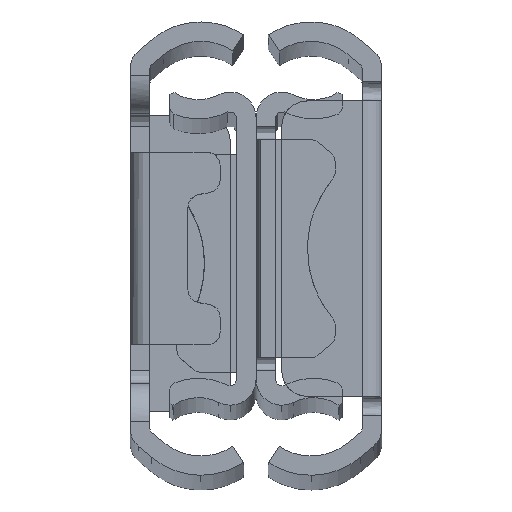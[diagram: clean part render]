
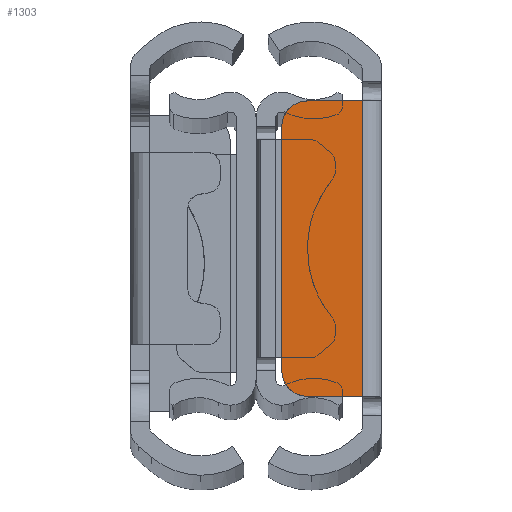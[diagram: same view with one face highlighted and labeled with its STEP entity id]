
A CAD part, top view. The second image highlights one B-rep face of the part: STEP entity #1303.
In plain terms, the highlighted planar face has unit normal (0, 0, 1) as drawn and (0, 0, -1) by its records, which use the part's own axes.
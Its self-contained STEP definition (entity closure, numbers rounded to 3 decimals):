
#31 = CARTESIAN_POINT ( 'NONE',  ( 218.1, 3.833, -152.4 ) ) ;
#46 = CARTESIAN_POINT ( 'NONE',  ( 216.667, 11.5, -152.4 ) ) ;
#139 = VERTEX_POINT ( 'NONE', #3475 ) ;
#174 = CARTESIAN_POINT ( 'NONE',  ( 218.1, -11.5, -152.4 ) ) ;
#283 = CARTESIAN_POINT ( 'NONE',  ( 211.852, -10.023, -152.4 ) ) ;
#435 = CARTESIAN_POINT ( 'NONE',  ( 213.277, 11.448, -152.4 ) ) ;
#442 = CARTESIAN_POINT ( 'NONE',  ( 218.1, 11.5, -152.4 ) ) ;
#677 = CARTESIAN_POINT ( 'NONE',  ( 212.571, -11.099, -152.4 ) ) ;
#682 = EDGE_CURVE ( 'NONE', #1271, #139, #5961, .T. ) ;
#799 = EDGE_CURVE ( 'NONE', #4651, #3382, #2037, .T. ) ;
#808 = CARTESIAN_POINT ( 'NONE',  ( 215.233, -11.5, -152.4 ) ) ;
#917 = ORIENTED_EDGE ( 'NONE', *, *, #1166, .F. ) ;
#997 = CARTESIAN_POINT ( 'NONE',  ( 218.1, -3.833, -152.4 ) ) ;
#1016 = ORIENTED_EDGE ( 'NONE', *, *, #799, .F. ) ;
#1046 = DIRECTION ( 'NONE',  ( 0., 0., 1. ) ) ;
#1166 = EDGE_CURVE ( 'NONE', #3061, #4651, #5189, .T. ) ;
#1256 = CARTESIAN_POINT ( 'NONE',  ( 212.052, -10.507, -152.4 ) ) ;
#1271 = VERTEX_POINT ( 'NONE', #442 ) ;
#1303 = ADVANCED_FACE ( 'NONE', ( #2659 ), #5572, .F. ) ;
#1344 = CARTESIAN_POINT ( 'NONE',  ( 213.8, -11.5, -152.4 ) ) ;
#1435 = CARTESIAN_POINT ( 'NONE',  ( 211.8, 9.762, -152.4 ) ) ;
#1577 = CARTESIAN_POINT ( 'NONE',  ( 215.233, 11.5, -152.4 ) ) ;
#1622 = EDGE_CURVE ( 'NONE', #139, #6201, #3610, .T. ) ;
#2037 = B_SPLINE_CURVE_WITH_KNOTS ( 'NONE', 3,
 ( #1344, #808, #4293, #5912 ),
 .UNSPECIFIED., .F., .F.,
 ( 4, 4 ),
 ( 0., 1. ),
 .UNSPECIFIED. ) ;
#2057 = CARTESIAN_POINT ( 'NONE',  ( 211.8, -9.5, -152.4 ) ) ;
#2280 = CARTESIAN_POINT ( 'NONE',  ( 211.8, -9.5, -152.4 ) ) ;
#2289 = CARTESIAN_POINT ( 'NONE',  ( 211.8, -9.5, -152.4 ) ) ;
#2428 = CARTESIAN_POINT ( 'NONE',  ( 212.793, 11.248, -152.4 ) ) ;
#2659 = FACE_OUTER_BOUND ( 'NONE', #2934, .T. ) ;
#2695 = CARTESIAN_POINT ( 'NONE',  ( 213.8, -11.5, -152.4 ) ) ;
#2888 = ORIENTED_EDGE ( 'NONE', *, *, #4121, .F. ) ;
#2934 = EDGE_LOOP ( 'NONE', ( #2888, #2963, #4861, #6144, #1016, #917 ) ) ;
#2963 = ORIENTED_EDGE ( 'NONE', *, *, #1622, .F. ) ;
#3051 = EDGE_CURVE ( 'NONE', #3382, #1271, #5222, .T. ) ;
#3061 = VERTEX_POINT ( 'NONE', #2057 ) ;
#3105 = CARTESIAN_POINT ( 'NONE',  ( 218.1, 11.5, -152.4 ) ) ;
#3139 = CARTESIAN_POINT ( 'NONE',  ( 218.1, -11.5, -152.4 ) ) ;
#3382 = VERTEX_POINT ( 'NONE', #174 ) ;
#3409 = CARTESIAN_POINT ( 'NONE',  ( 213.8, 11.5, -152.4 ) ) ;
#3444 = CARTESIAN_POINT ( 'NONE',  ( 211.8, 9.5, -152.4 ) ) ;
#3475 = CARTESIAN_POINT ( 'NONE',  ( 213.8, 11.5, -152.4 ) ) ;
#3545 = CARTESIAN_POINT ( 'NONE',  ( 213.8, -11.5, -152.4 ) ) ;
#3610 = B_SPLINE_CURVE_WITH_KNOTS ( 'NONE', 3,
 ( #3409, #6404, #435, #2428, #5410, #4919, #4414, #3920, #1435, #3444 ),
 .UNSPECIFIED., .F., .F.,
 ( 4, 2, 2, 2, 4 ),
 ( 0., 0.25, 0.5, 0.75, 1. ),
 .UNSPECIFIED. ) ;
#3920 = CARTESIAN_POINT ( 'NONE',  ( 211.852, 10.023, -152.4 ) ) ;
#4121 = EDGE_CURVE ( 'NONE', #6201, #3061, #4731, .T. ) ;
#4164 = CARTESIAN_POINT ( 'NONE',  ( 211.8, 9.5, -152.4 ) ) ;
#4201 = CARTESIAN_POINT ( 'NONE',  ( 212.793, -11.248, -152.4 ) ) ;
#4237 = CARTESIAN_POINT ( 'NONE',  ( 211.8, -3.167, -152.4 ) ) ;
#4259 = CARTESIAN_POINT ( 'NONE',  ( 213.538, -11.5, -152.4 ) ) ;
#4293 = CARTESIAN_POINT ( 'NONE',  ( 216.667, -11.5, -152.4 ) ) ;
#4414 = CARTESIAN_POINT ( 'NONE',  ( 212.052, 10.507, -152.4 ) ) ;
#4557 = CARTESIAN_POINT ( 'NONE',  ( 218.1, 11.5, -152.4 ) ) ;
#4651 = VERTEX_POINT ( 'NONE', #3545 ) ;
#4697 = CARTESIAN_POINT ( 'NONE',  ( 212.201, -10.729, -152.4 ) ) ;
#4731 = B_SPLINE_CURVE_WITH_KNOTS ( 'NONE', 3,
 ( #5202, #5758, #4237, #2289 ),
 .UNSPECIFIED., .F., .F.,
 ( 4, 4 ),
 ( 0., 1. ),
 .UNSPECIFIED. ) ;
#4861 = ORIENTED_EDGE ( 'NONE', *, *, #682, .F. ) ;
#4919 = CARTESIAN_POINT ( 'NONE',  ( 212.201, 10.729, -152.4 ) ) ;
#5022 = CARTESIAN_POINT ( 'NONE',  ( 214.4, 13.74, -152.4 ) ) ;
#5116 = DIRECTION ( 'NONE',  ( 0., -1., 0. ) ) ;
#5189 = B_SPLINE_CURVE_WITH_KNOTS ( 'NONE', 3,
 ( #2280, #5747, #283, #1256, #4697, #677, #4201, #5326, #4259, #2695 ),
 .UNSPECIFIED., .F., .F.,
 ( 4, 2, 2, 2, 4 ),
 ( 0., 0.25, 0.5, 0.75, 1. ),
 .UNSPECIFIED. ) ;
#5202 = CARTESIAN_POINT ( 'NONE',  ( 211.8, 9.5, -152.4 ) ) ;
#5222 = B_SPLINE_CURVE_WITH_KNOTS ( 'NONE', 3,
 ( #3139, #997, #31, #3105 ),
 .UNSPECIFIED., .F., .F.,
 ( 4, 4 ),
 ( 0., 1. ),
 .UNSPECIFIED. ) ;
#5326 = CARTESIAN_POINT ( 'NONE',  ( 213.277, -11.448, -152.4 ) ) ;
#5410 = CARTESIAN_POINT ( 'NONE',  ( 212.571, 11.099, -152.4 ) ) ;
#5430 = AXIS2_PLACEMENT_3D ( 'NONE', #5022, #1046, #5116 ) ;
#5572 = PLANE ( 'NONE',  #5430 ) ;
#5574 = CARTESIAN_POINT ( 'NONE',  ( 213.8, 11.5, -152.4 ) ) ;
#5747 = CARTESIAN_POINT ( 'NONE',  ( 211.8, -9.762, -152.4 ) ) ;
#5758 = CARTESIAN_POINT ( 'NONE',  ( 211.8, 3.167, -152.4 ) ) ;
#5912 = CARTESIAN_POINT ( 'NONE',  ( 218.1, -11.5, -152.4 ) ) ;
#5961 = B_SPLINE_CURVE_WITH_KNOTS ( 'NONE', 3,
 ( #4557, #46, #1577, #5574 ),
 .UNSPECIFIED., .F., .F.,
 ( 4, 4 ),
 ( 0., 1. ),
 .UNSPECIFIED. ) ;
#6144 = ORIENTED_EDGE ( 'NONE', *, *, #3051, .F. ) ;
#6201 = VERTEX_POINT ( 'NONE', #4164 ) ;
#6404 = CARTESIAN_POINT ( 'NONE',  ( 213.538, 11.5, -152.4 ) ) ;
